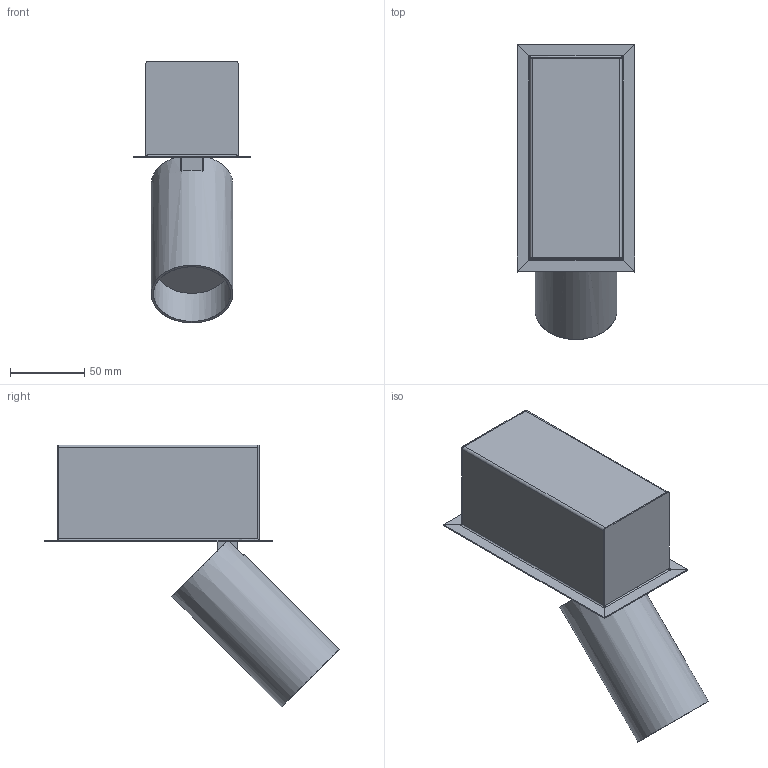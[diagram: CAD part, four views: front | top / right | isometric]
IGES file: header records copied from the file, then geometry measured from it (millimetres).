
Start section: SolidWorks IGES file using analytic representation for surfaces
Global section: file name: X:\PRODUKT\Modele 3D_WWW\_KOLEKCJE WWW\MONO-DEEP\MONO-DEEP-I-10458-10464\MONO-DEEP-I-10458-10464.IGS; native system: SolidWorks 2021; preprocessor: SolidWorks 2021; author: gabriela.tworek; date: 220823.120347; units: millimetre
Bounding box: 79.4 x 198.58 x 176.38 mm (x, y, z)
Surface area: 124715.8 mm2 (no closed solid volume)
Topology: 0 solids, 0 shells, 113 faces, 578 edges, 574 vertices
Faces by surface type: bspline 85, revolution 28
